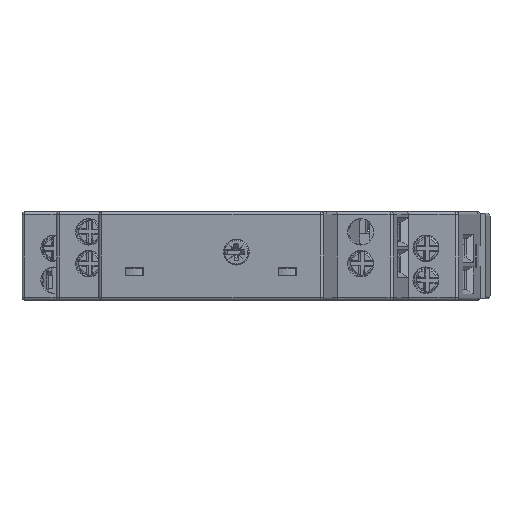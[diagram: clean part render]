
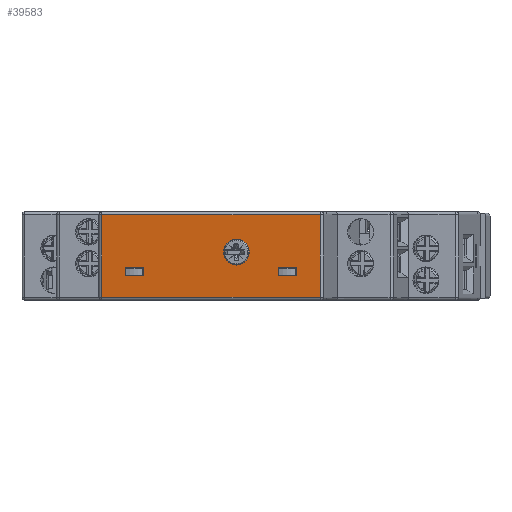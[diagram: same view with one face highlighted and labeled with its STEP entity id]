
A CAD part, front view. The second image highlights one B-rep face of the part: STEP entity #39583.
In plain terms, the highlighted planar face has unit normal (-0.167, -0.986, 0) as drawn and (0, 0, 1) by its records, which use the part's own axes.
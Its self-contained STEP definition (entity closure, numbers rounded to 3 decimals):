
#587 = LINE ( 'NONE', #16375, #8513 ) ;
#667 = VECTOR ( 'NONE', #46694, 1000. ) ;
#1514 = LINE ( 'NONE', #30414, #667 ) ;
#1752 = EDGE_CURVE ( 'NONE', #34030, #3440, #6378, .T. ) ;
#2453 = VECTOR ( 'NONE', #18149, 1000. ) ;
#2821 = CARTESIAN_POINT ( 'NONE',  ( 10.011, 14.016, 4. ) ) ;
#3098 = DIRECTION ( 'NONE',  ( 0., -1., 0. ) ) ;
#3440 = VERTEX_POINT ( 'NONE', #37045 ) ;
#4920 = CIRCLE ( 'NONE', #35676, 2.55 ) ;
#5325 = DIRECTION ( 'NONE',  ( 1., 0., 0. ) ) ;
#5715 = VERTEX_POINT ( 'NONE', #37337 ) ;
#5956 = LINE ( 'NONE', #38056, #14806 ) ;
#6024 = CARTESIAN_POINT ( 'NONE',  ( -7.089, 11.736, 4. ) ) ;
#6116 = CARTESIAN_POINT ( 'NONE',  ( -7.089, 11.766, 4. ) ) ;
#6190 = ORIENTED_EDGE ( 'NONE', *, *, #23419, .T. ) ;
#6305 = LINE ( 'NONE', #2821, #43966 ) ;
#6378 = LINE ( 'NONE', #48063, #22701 ) ;
#7370 = VERTEX_POINT ( 'NONE', #33765 ) ;
#7968 = VERTEX_POINT ( 'NONE', #36013 ) ;
#8330 = DIRECTION ( 'NONE',  ( 0., 0., 1. ) ) ;
#8513 = VECTOR ( 'NONE', #45231, 1000. ) ;
#13625 = ORIENTED_EDGE ( 'NONE', *, *, #32664, .T. ) ;
#13727 = DIRECTION ( 'NONE',  ( 0., -1., 0. ) ) ;
#14296 = VERTEX_POINT ( 'NONE', #15426 ) ;
#14347 = VERTEX_POINT ( 'NONE', #32807 ) ;
#14806 = VECTOR ( 'NONE', #38580, 1000. ) ;
#15304 = CARTESIAN_POINT ( 'NONE',  ( -7.089, 14.016, 4. ) ) ;
#15408 = ORIENTED_EDGE ( 'NONE', *, *, #50383, .T. ) ;
#15426 = CARTESIAN_POINT ( 'NONE',  ( 10.011, 10.166, 4. ) ) ;
#15532 = VERTEX_POINT ( 'NONE', #41862 ) ;
#15538 = VERTEX_POINT ( 'NONE', #38114 ) ;
#15836 = FACE_BOUND ( 'NONE', #35427, .T. ) ;
#16042 = EDGE_CURVE ( 'NONE', #7370, #14347, #5956, .T. ) ;
#16375 = CARTESIAN_POINT ( 'NONE',  ( -7.089, 10.136, 4. ) ) ;
#16441 = CARTESIAN_POINT ( 'NONE',  ( -1.989, 14.786, 4. ) ) ;
#17238 = CARTESIAN_POINT ( 'NONE',  ( -28.96, 14.016, 4. ) ) ;
#17532 = EDGE_CURVE ( 'NONE', #14296, #18652, #32008, .T. ) ;
#17877 = VERTEX_POINT ( 'NONE', #43173 ) ;
#18050 = ORIENTED_EDGE ( 'NONE', *, *, #16042, .T. ) ;
#18149 = DIRECTION ( 'NONE',  ( 0., 1., 0. ) ) ;
#18652 = VERTEX_POINT ( 'NONE', #38498 ) ;
#19326 = VERTEX_POINT ( 'NONE', #39963 ) ;
#22348 = EDGE_CURVE ( 'NONE', #15532, #34030, #31453, .T. ) ;
#22701 = VECTOR ( 'NONE', #39528, 1000. ) ;
#22966 = EDGE_CURVE ( 'NONE', #19326, #15532, #51030, .T. ) ;
#23004 = VECTOR ( 'NONE', #50551, 1000. ) ;
#23419 = EDGE_CURVE ( 'NONE', #5715, #7968, #4920, .T. ) ;
#24644 = DIRECTION ( 'NONE',  ( 1., 0., 0. ) ) ;
#24858 = EDGE_CURVE ( 'NONE', #41391, #30320, #37816, .T. ) ;
#26179 = EDGE_CURVE ( 'NONE', #15538, #17877, #38209, .T. ) ;
#27414 = ORIENTED_EDGE ( 'NONE', *, *, #31594, .T. ) ;
#27770 = DIRECTION ( 'NONE',  ( 0., 0., -1. ) ) ;
#28357 = ORIENTED_EDGE ( 'NONE', *, *, #39905, .T. ) ;
#28428 = AXIS2_PLACEMENT_3D ( 'NONE', #16441, #27770, #45295 ) ;
#29281 = CIRCLE ( 'NONE', #28428, 2.55 ) ;
#29802 = VECTOR ( 'NONE', #35131, 1000. ) ;
#29896 = VECTOR ( 'NONE', #5325, 1000. ) ;
#29932 = CARTESIAN_POINT ( 'NONE',  ( -24.189, 14.016, 4. ) ) ;
#30320 = VERTEX_POINT ( 'NONE', #39704 ) ;
#30321 = LINE ( 'NONE', #51152, #29802 ) ;
#30414 = CARTESIAN_POINT ( 'NONE',  ( -7.089, 5.895, 4. ) ) ;
#30485 = ORIENTED_EDGE ( 'NONE', *, *, #52338, .T. ) ;
#31453 = LINE ( 'NONE', #6024, #43408 ) ;
#31594 = EDGE_CURVE ( 'NONE', #14347, #41391, #30321, .T. ) ;
#31713 = DIRECTION ( 'NONE',  ( 0., 0., -1. ) ) ;
#32008 = LINE ( 'NONE', #32272, #49906 ) ;
#32272 = CARTESIAN_POINT ( 'NONE',  ( -7.089, 10.166, 4. ) ) ;
#32633 = CARTESIAN_POINT ( 'NONE',  ( -20.589, 11.736, 4. ) ) ;
#32664 = EDGE_CURVE ( 'NONE', #3440, #19326, #587, .T. ) ;
#32807 = CARTESIAN_POINT ( 'NONE',  ( 14.781, 22.136, 4. ) ) ;
#33224 = VECTOR ( 'NONE', #13727, 1000. ) ;
#33765 = CARTESIAN_POINT ( 'NONE',  ( 14.781, 5.895, 4. ) ) ;
#34030 = VERTEX_POINT ( 'NONE', #32633 ) ;
#34779 = ORIENTED_EDGE ( 'NONE', *, *, #17532, .T. ) ;
#35131 = DIRECTION ( 'NONE',  ( -1., 0., 0. ) ) ;
#35175 = ORIENTED_EDGE ( 'NONE', *, *, #22348, .T. ) ;
#35427 = EDGE_LOOP ( 'NONE', ( #6190, #41187 ) ) ;
#35654 = FACE_OUTER_BOUND ( 'NONE', #45946, .T. ) ;
#35676 = AXIS2_PLACEMENT_3D ( 'NONE', #46937, #31713, #51482 ) ;
#36012 = DIRECTION ( 'NONE',  ( -1., 0., 0. ) ) ;
#36013 = CARTESIAN_POINT ( 'NONE',  ( -4.539, 14.786, 4. ) ) ;
#37045 = CARTESIAN_POINT ( 'NONE',  ( -20.589, 10.136, 4. ) ) ;
#37337 = CARTESIAN_POINT ( 'NONE',  ( 0.561, 14.786, 4. ) ) ;
#37694 = EDGE_LOOP ( 'NONE', ( #13625, #42833, #35175, #41077 ) ) ;
#37702 = ORIENTED_EDGE ( 'NONE', *, *, #26179, .T. ) ;
#37815 = EDGE_CURVE ( 'NONE', #7968, #5715, #29281, .T. ) ;
#37816 = LINE ( 'NONE', #17238, #33224 ) ;
#38056 = CARTESIAN_POINT ( 'NONE',  ( 14.781, 14.016, 4. ) ) ;
#38114 = CARTESIAN_POINT ( 'NONE',  ( 6.411, 11.766, 4. ) ) ;
#38209 = LINE ( 'NONE', #6116, #29896 ) ;
#38498 = CARTESIAN_POINT ( 'NONE',  ( 6.411, 10.166, 4. ) ) ;
#38580 = DIRECTION ( 'NONE',  ( 0., 1., 0. ) ) ;
#38650 = DIRECTION ( 'NONE',  ( 1., 0., 0. ) ) ;
#39528 = DIRECTION ( 'NONE',  ( 0., -1., 0. ) ) ;
#39583 = ADVANCED_FACE ( 'NONE', ( #40687, #52453, #15836, #35654 ), #39902, .T. ) ;
#39704 = CARTESIAN_POINT ( 'NONE',  ( -28.96, 5.895, 4. ) ) ;
#39902 = PLANE ( 'NONE',  #49875 ) ;
#39905 = EDGE_CURVE ( 'NONE', #17877, #14296, #6305, .T. ) ;
#39963 = CARTESIAN_POINT ( 'NONE',  ( -24.189, 10.136, 4. ) ) ;
#40687 = FACE_BOUND ( 'NONE', #41147, .T. ) ;
#41077 = ORIENTED_EDGE ( 'NONE', *, *, #1752, .T. ) ;
#41147 = EDGE_LOOP ( 'NONE', ( #34779, #30485, #37702, #28357 ) ) ;
#41187 = ORIENTED_EDGE ( 'NONE', *, *, #37815, .T. ) ;
#41391 = VERTEX_POINT ( 'NONE', #49261 ) ;
#41833 = ORIENTED_EDGE ( 'NONE', *, *, #24858, .T. ) ;
#41862 = CARTESIAN_POINT ( 'NONE',  ( -24.189, 11.736, 4. ) ) ;
#42280 = LINE ( 'NONE', #51096, #23004 ) ;
#42833 = ORIENTED_EDGE ( 'NONE', *, *, #22966, .T. ) ;
#43173 = CARTESIAN_POINT ( 'NONE',  ( 10.011, 11.766, 4. ) ) ;
#43408 = VECTOR ( 'NONE', #38650, 1000. ) ;
#43966 = VECTOR ( 'NONE', #3098, 1000. ) ;
#45231 = DIRECTION ( 'NONE',  ( -1., 0., 0. ) ) ;
#45295 = DIRECTION ( 'NONE',  ( 1., 0., 0. ) ) ;
#45946 = EDGE_LOOP ( 'NONE', ( #27414, #41833, #15408, #18050 ) ) ;
#46694 = DIRECTION ( 'NONE',  ( 1., 0., 0. ) ) ;
#46937 = CARTESIAN_POINT ( 'NONE',  ( -1.989, 14.786, 4. ) ) ;
#48063 = CARTESIAN_POINT ( 'NONE',  ( -20.589, 14.016, 4. ) ) ;
#49261 = CARTESIAN_POINT ( 'NONE',  ( -28.96, 22.136, 4. ) ) ;
#49875 = AXIS2_PLACEMENT_3D ( 'NONE', #15304, #8330, #24644 ) ;
#49906 = VECTOR ( 'NONE', #36012, 1000. ) ;
#50383 = EDGE_CURVE ( 'NONE', #30320, #7370, #1514, .T. ) ;
#50551 = DIRECTION ( 'NONE',  ( 0., 1., 0. ) ) ;
#51030 = LINE ( 'NONE', #29932, #2453 ) ;
#51096 = CARTESIAN_POINT ( 'NONE',  ( 6.411, 14.016, 4. ) ) ;
#51152 = CARTESIAN_POINT ( 'NONE',  ( -7.089, 22.136, 4. ) ) ;
#51482 = DIRECTION ( 'NONE',  ( 1., 0., 0. ) ) ;
#52338 = EDGE_CURVE ( 'NONE', #18652, #15538, #42280, .T. ) ;
#52453 = FACE_BOUND ( 'NONE', #37694, .T. ) ;
